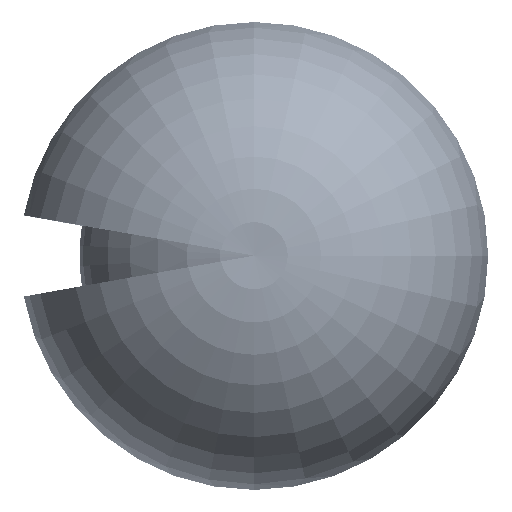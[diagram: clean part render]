
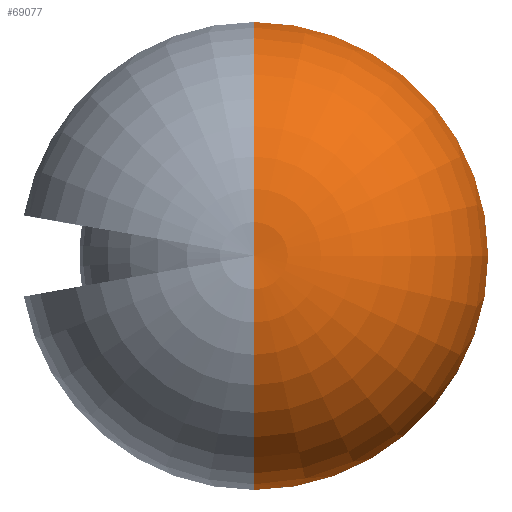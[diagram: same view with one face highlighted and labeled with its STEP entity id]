
A CAD part, top view. The second image highlights one B-rep face of the part: STEP entity #69077.
In plain terms, the highlighted toroidal (fillet/blend) face has major radius 320 mm and minor radius 2644.27 mm.
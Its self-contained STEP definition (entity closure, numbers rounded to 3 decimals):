
#10984 = DIRECTION ( 'NONE',  ( 0., 0., -1. ) ) ;
#15563 = ORIENTED_EDGE ( 'NONE', *, *, #342625, .T. ) ;
#27126 = DIRECTION ( 'NONE',  ( 1., 0., 0. ) ) ;
#64523 = FACE_OUTER_BOUND ( 'NONE', #280188, .T. ) ;
#67586 = CIRCLE ( 'NONE', #622260, 2954.208 ) ;
#69077 = ADVANCED_FACE ( 'NONE', ( #64523 ), #290148, .T. ) ;
#86011 = EDGE_CURVE ( 'NONE', #146636, #150150, #67586, .T. ) ;
#89497 = CARTESIAN_POINT ( 'NONE',  ( 0., 0., 3404.836 ) ) ;
#117894 = DIRECTION ( 'NONE',  ( 0., 1., 0. ) ) ;
#146636 = VERTEX_POINT ( 'NONE', #306900 ) ;
#150150 = VERTEX_POINT ( 'NONE', #372416 ) ;
#162298 = DIRECTION ( 'NONE',  ( 0., 1., 0. ) ) ;
#168532 = CARTESIAN_POINT ( 'NONE',  ( 0., 0., 780. ) ) ;
#242107 = AXIS2_PLACEMENT_3D ( 'NONE', #270105, #27126, #604777 ) ;
#270105 = CARTESIAN_POINT ( 'NONE',  ( 0., -320., 780. ) ) ;
#280188 = EDGE_LOOP ( 'NONE', ( #326284, #15563, #306604 ) ) ;
#290148 = TOROIDAL_SURFACE ( 'NONE', #622762, 320., 2644.27 ) ;
#306604 = ORIENTED_EDGE ( 'NONE', *, *, #86011, .F. ) ;
#306900 = CARTESIAN_POINT ( 'NONE',  ( 0., 2954.208, 1010.463 ) ) ;
#326284 = ORIENTED_EDGE ( 'NONE', *, *, #398971, .F. ) ;
#342625 = EDGE_CURVE ( 'NONE', #432284, #150150, #514294, .T. ) ;
#351552 = CARTESIAN_POINT ( 'NONE',  ( 0., 0., 1010.463 ) ) ;
#372416 = CARTESIAN_POINT ( 'NONE',  ( 0., -2954.208, 1010.463 ) ) ;
#387994 = DIRECTION ( 'NONE',  ( -1., 0., 0. ) ) ;
#397352 = DIRECTION ( 'NONE',  ( 0., 0., 1. ) ) ;
#397825 = AXIS2_PLACEMENT_3D ( 'NONE', #542688, #387994, #397352 ) ;
#398971 = EDGE_CURVE ( 'NONE', #432284, #146636, #508779, .T. ) ;
#432284 = VERTEX_POINT ( 'NONE', #89497 ) ;
#508779 = CIRCLE ( 'NONE', #397825, 2644.27 ) ;
#514294 = CIRCLE ( 'NONE', #242107, 2644.27 ) ;
#542688 = CARTESIAN_POINT ( 'NONE',  ( 0., 320., 780. ) ) ;
#594605 = DIRECTION ( 'NONE',  ( 0., 0., -1. ) ) ;
#604777 = DIRECTION ( 'NONE',  ( 0., 1., 0. ) ) ;
#622260 = AXIS2_PLACEMENT_3D ( 'NONE', #351552, #594605, #117894 ) ;
#622762 = AXIS2_PLACEMENT_3D ( 'NONE', #168532, #10984, #162298 ) ;
